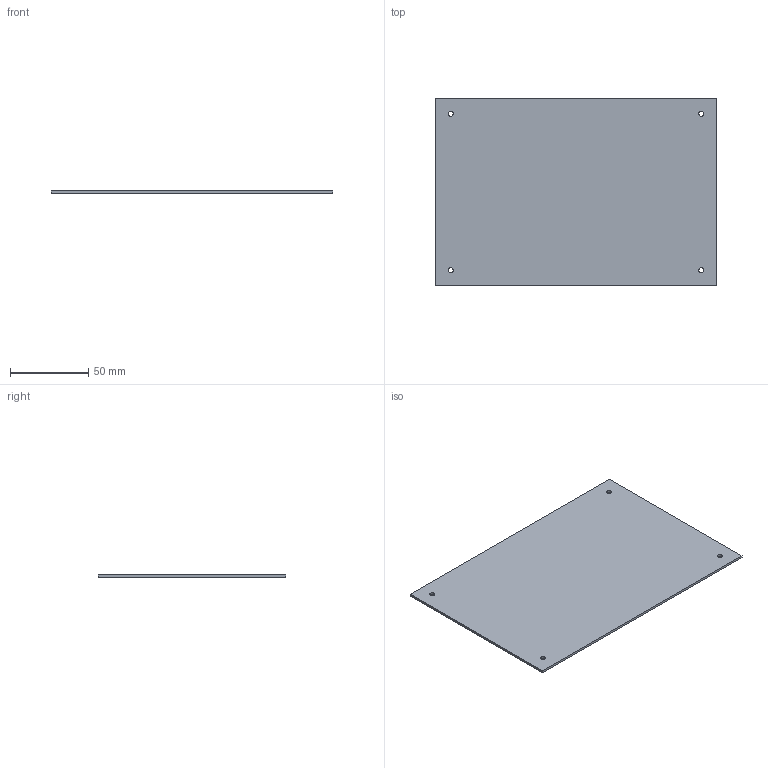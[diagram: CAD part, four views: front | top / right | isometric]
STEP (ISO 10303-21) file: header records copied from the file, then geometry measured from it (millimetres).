
FILE_DESCRIPTION(('KiCad electronic assembly'),'2;1');
FILE_NAME('board.step','2026-08-09T14:46:54',('Pcbnew'),('Kicad'), 'Open CASCADE STEP processor 7.9','KiCad to STEP converter','Unknown' );
FILE_SCHEMA(('AUTOMOTIVE_DESIGN { 1 0 10303 214 1 1 1 1 }'));
Length unit declared in the file: millimetre
Products named in the file (2): board 1; dock_PCB
Assembly tree (1 placements, depth 2):
  board 1
    dock_PCB
Bounding box: 180 x 120 x 1.51 mm (x, y, z)
Volume: 32567.4 mm3; surface area: 44102.4 mm2
Topology: 1 solids, 1 shells, 10 faces, 24 edges, 16 vertices
Faces by surface type: plane 6, cylinder 4
Full cylindrical faces by diameter (mm): 3.2 x4
Entity records: 349 total; most frequent: DIRECTION 56, CARTESIAN_POINT 52, ORIENTED_EDGE 48, EDGE_CURVE 24, AXIS2_PLACEMENT_3D 20, FACE_BOUND 18, EDGE_LOOP 18, VERTEX_POINT 16
